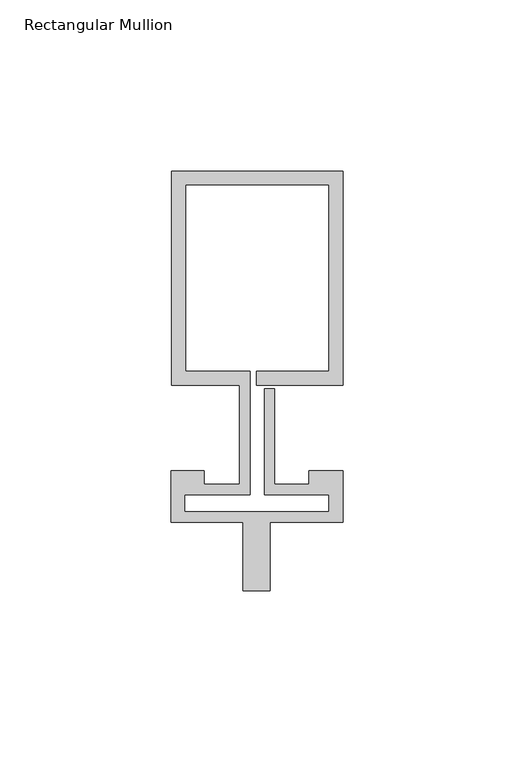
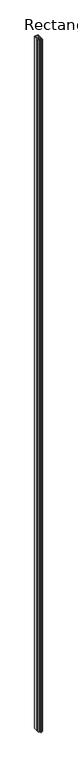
"""IFC4 building model written with IfcOpenShell, lengths in millimetres: member geometry, Rectangular Mullion : Reynaers_CW-50_Mullion-Transom_Vertical_62.5mm_Facecap-06A."""

from ifc_helpers import new_model, si_unit, frame, origin, place, context, project, spatial, polyline, outline, extrude, source, transform, mapped, element, save


def rectangular_mullion_56021934(model_context):
    return source(origin(), model_context, "Body", "SweptSolid", [
        extrude(outline(polyline([(-24.8004059, 75.0), (25.1995941, 75.0), (25.1995941, 12.5), (0.0, 12.5), (0.0, 16.5), (21.1995941, 16.5), (21.1995941, 71.0), (-20.8004059, 71.0), (-20.8004059, 16.5), (-1.9004059, 16.5), (-1.9004059, -19.5), (-20.994845, -19.5), (-20.994845, -24.4191338), (21.1995941, -24.4191338), (21.1995941, -19.5), (2.2995941, -19.5), (2.2995941, 11.5), (5.2995941, 11.5), (5.2995941, -16.5), (15.2996495, -16.5), (15.2996495, -12.5), (25.1995941, -12.5), (25.1995941, -27.5), (4.004855, -27.5), (4.004855, -47.5), (-3.995145, -47.5), (-3.995145, -27.5), (-24.994845, -27.5), (-24.994845, -12.5), (-15.2996495, -12.5), (-15.2996495, -16.5), (-4.9004059, -16.5), (-4.9004059, 12.5), (-24.8004059, 12.5), (-24.8004059, 75.0)])), frame((0.0, 0.0, -10400.0), z_axis=(0.0, 0.0, 1.0), x_axis=(1.0, 0.0, 0.0)), (0.0, 0.0, 1.0), 10400.0),
    ])


if __name__ == "__main__":
    model = new_model("IFC4")
    model_context = context("Model", 3, world=origin())
    ifc_project = project(units=[si_unit("LENGTHUNIT", "METRE", prefix="MILLI")], contexts=[model_context])
    site = spatial("IfcSite", under=ifc_project)
    building = spatial("IfcBuilding", under=site)
    placement = place(None, origin())
    rectangular_mullion_shape = rectangular_mullion_56021934(model_context)
    element("IfcMember", 1, ObjectType="Rectangular Mullion : Reynaers_CW-50_Mullion-Transom_Vertical_62.5mm_Facecap-06A", at=placement, inside=building, context=model_context, shape_type="MappedRepresentation", body=[
        mapped(rectangular_mullion_shape, transform((0.0, 0.0, 0.0), x_axis=(1.0, 0.0, 0.0), y_axis=(0.0, 1.0, 0.0), z_axis=(0.0, 0.0, 1.0))),
    ])
    save(model, "model.ifc")
